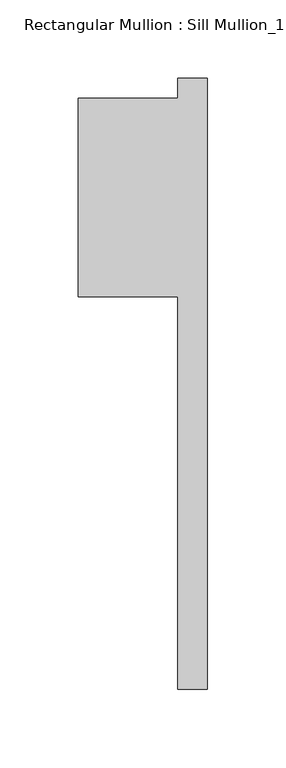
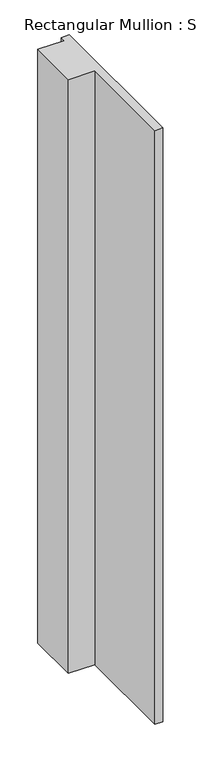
"""IFC4 building model written with IfcOpenShell, lengths in millimetres: member geometry."""

from ifc_helpers import new_model, si_unit, frame, origin, place, context, project, spatial, polyline, outline, extrude, source, transform, mapped, element, save


def member_4cfd9d93(model_context):
    return source(origin(), model_context, "Body", "SweptSolid", [
        extrude(outline(polyline([(-82.55, -50.8), (-82.55, 76.2), (-19.05, 76.2), (-19.05, 88.9), (0.0, 88.9), (0.0, -301.625), (-19.05, -301.625), (-19.05, -50.8), (-82.55, -50.8)])), frame((0.0, 0.0, -1512.57), z_axis=(0.0, 0.0, 1.0), x_axis=(1.0, 0.0, 0.0)), (0.0, 0.0, 1.0), 1512.57),
    ])


if __name__ == "__main__":
    model = new_model("IFC4")
    model_context = context("Model", 3, world=origin())
    ifc_project = project(units=[si_unit("LENGTHUNIT", "METRE", prefix="MILLI")], contexts=[model_context])
    site = spatial("IfcSite", under=ifc_project)
    building = spatial("IfcBuilding", under=site)
    placement = place(None, origin())
    member_shape = member_4cfd9d93(model_context)
    element("IfcMember", 1, ObjectType="Rectangular Mullion : Sill Mullion_15\" thick wall", at=placement, inside=building, context=model_context, shape_type="MappedRepresentation", body=[
        mapped(member_shape, transform((0.0, 0.0, 0.0), x_axis=(1.0, 0.0, 0.0), y_axis=(0.0, 1.0, 0.0), z_axis=(0.0, 0.0, 1.0))),
    ])
    save(model, "model.ifc")
